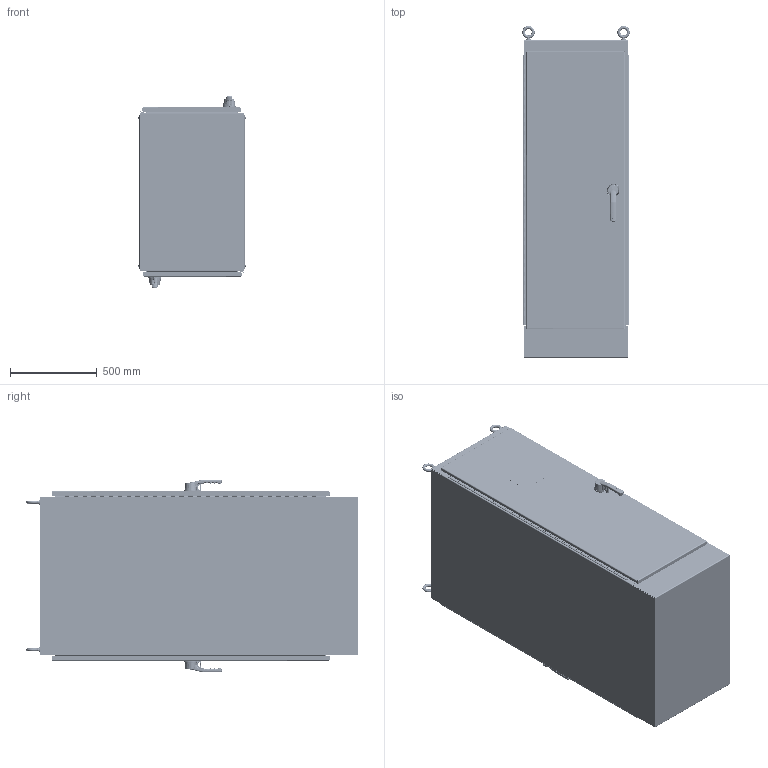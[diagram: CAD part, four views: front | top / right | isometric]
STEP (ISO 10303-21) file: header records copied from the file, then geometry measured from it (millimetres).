
FILE_DESCRIPTION (( 'STEP AP214' ), '1' );
FILE_NAME ('35448.STEP', '2017-09-29T21:56:44', ( '' ), ( '' ), 'SwSTEP 2.0', 'SolidWorks 2014', '' );
FILE_SCHEMA (( 'AUTOMOTIVE_DESIGN' ));
Length unit declared in the file: inch
Products named in the file (73): 99411498_99411498; 11158084; 23418001; 99401232_99411975; 87568131; 26118002_26118002; 93106001_93106001; 87569012; 35131001_35131001; 87574569; 87794223_87794223; 30391; 22101014; 87788411; 87932883; 87411639; 35124001_35124001; 11158228; 87573197; 89152828; 35261001; 99411839_99411839; 32216005; 89124531; 35124002_35124002; 99401230; 89081606; 89124532; 35130001_SI-HHMS 0.25-28x0.375x0.375-N; 22131012; 11158129_11158129; 89121186; 99401300_99401300; 89117127_LOCKED; 89060681; 46221001_46221001; 87567405_87567405; 26274015_26274015; 87568117; 99401305_99401305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
Assembly tree (174 placements, depth 4):
  35448
    87569012
      89081616
        87567985
        99412095_Config-Drawing  x2
      89081611
        87568045
        89060682
      89081606  x2
        87568117
        89060681
        11158129_11158129
      32216005  x2
      87573197  x4
      87932883  x4
      87794223_87794223  x4
    89117127_LOCKED  x2
      89117111
        87568131
        11158084
        87751114_87751114  x2
        99414350_Config-Drawing  x3
        89061913
      87567405_87567405
        87567417
        27155001
        87567421
        87566030
        87567410
      99401300_99401300
      35130001_SI-HHMS 0.25-28x0.375x0.375-N
      35124002_35124002
      35261001
      35124001_35124001
      22101014
      35131001_35131001
      26118002_26118002
      23418001
      22318013
      89106812_SETTING 2
        89106810
        89106811
        99411273_99411273
      26274015_26274015
        26273015_26273015
        30101003  x2
        27115001
        22318002
    22131012  x2
    87574569
      99401230  x2
      99411839_99411839  x2
      11158228
      87788411
    87552742
      99411839_99411839  x3
      99401230  x3
      93106001_93106001  x3
      99401232_99411975
      99411498_99411498
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Bounding box: 619.99 x 1913.18 x 1110.23 mm (x, y, z)
Volume: 24859287 mm3; surface area: 19780562.6 mm2
Topology: 243 solids, 247 shells, 18258 faces, 46599 edges, 29184 vertices
Faces by surface type: plane 7019, cylinder 4238, bspline 4204, cone 1401, torus 1220, sphere 176
Entity records: 297813 total; most frequent: CARTESIAN_POINT 147060, ORIENTED_EDGE 33384, DIRECTION 25224, EDGE_CURVE 16692, VERTEX_POINT 10566, LINE 8426, VECTOR 8426, AXIS2_PLACEMENT_3D 8399
